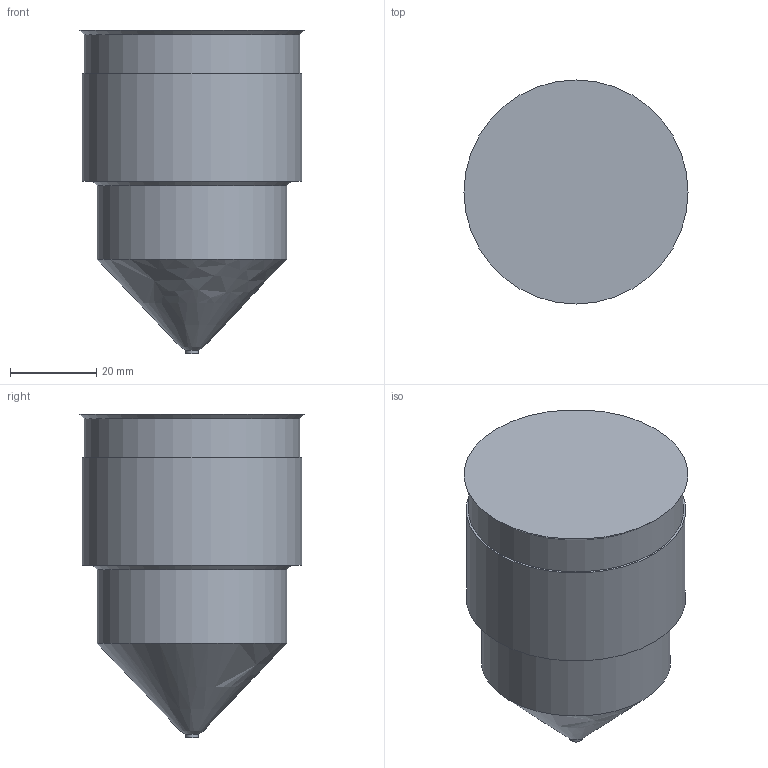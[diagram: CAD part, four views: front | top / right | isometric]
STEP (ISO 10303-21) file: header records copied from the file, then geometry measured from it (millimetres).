
FILE_DESCRIPTION(('STEP AP214'),'1');
FILE_NAME('SEDE IPM3000-A.stp','2018-06-13T07:24:17',(' '),(' '),'Spatial InterOp 3D',' ',' ');
FILE_SCHEMA(('AUTOMOTIVE_DESIGN { 1 0 10303 214 1 1 1 1 }'));
Length unit declared in the file: millimetre
Products named in the file (1): 1
Bounding box: 52 x 52 x 75 mm (x, y, z)
Volume: 110165.7 mm3; surface area: 13006.5 mm2
Topology: 1 solids, 1 shells, 11 faces, 17 edges, 10 vertices
Faces by surface type: cylinder 4, plane 4, cone 2, revolution 1
Full cylindrical faces by diameter (mm): 3 x1, 44 x1, 50 x1, 51 x1
Entity records: 325 total; most frequent: DIRECTION 43, CARTESIAN_POINT 39, AXIS2_PLACEMENT_3D 21, EDGE_LOOP 20, ORIENTED_EDGE 20, FACE_OUTER_BOUND 16, STYLED_ITEM 11, PRESENTATION_STYLE_ASSIGNMENT 11
